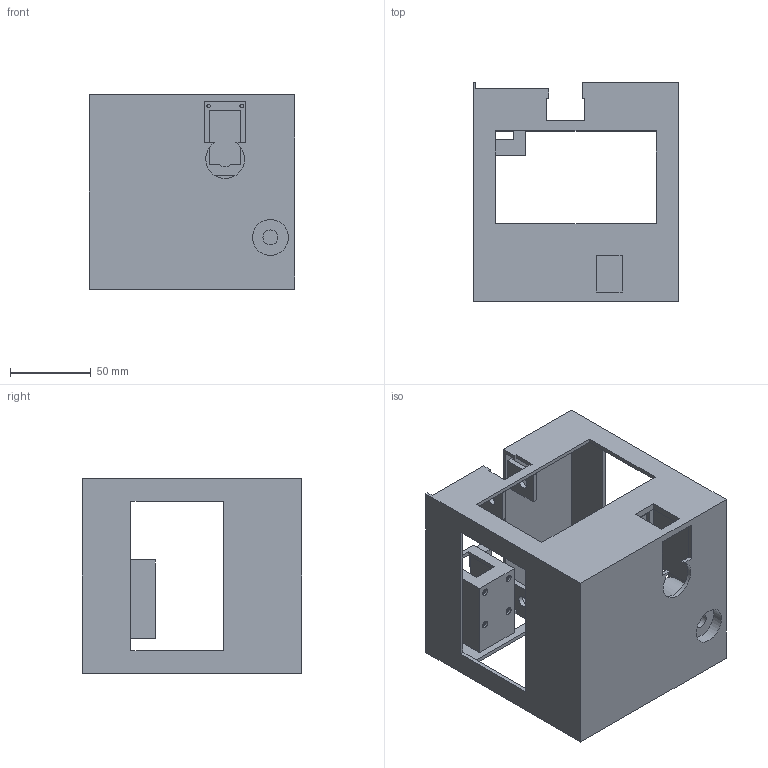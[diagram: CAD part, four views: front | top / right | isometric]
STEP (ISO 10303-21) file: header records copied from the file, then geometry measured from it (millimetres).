
FILE_DESCRIPTION(('Open CASCADE Model'),'2;1');
FILE_NAME('Open CASCADE Shape Model','2026-10-02T23:27:46',('Author'),( 'Open CASCADE'),'Open CASCADE STEP processor 7.9','Open CASCADE 7.9' ,'Unknown');
FILE_SCHEMA(('AUTOMOTIVE_DESIGN { 1 0 10303 214 1 1 1 1 }'));
Length unit declared in the file: millimetre
Products named in the file (6): Open CASCADE STEP translator 7.9 11; Open CASCADE STEP translator 7.9 11.1; Open CASCADE STEP translator 7.9 11.2; Open CASCADE STEP translator 7.9 11.3; Open CASCADE STEP translator 7.9 11.4; Open CASCADE STEP translator 7.9 11.5
Assembly tree (5 placements, depth 2):
  Open CASCADE STEP translator 7.9 11
    Open CASCADE STEP translator 7.9 11.1
    Open CASCADE STEP translator 7.9 11.2
    Open CASCADE STEP translator 7.9 11.3
    Open CASCADE STEP translator 7.9 11.4
    Open CASCADE STEP translator 7.9 11.5
Bounding box: 127 x 135.5 x 120.2 mm (x, y, z)
Volume: 202171.1 mm3; surface area: 157572.6 mm2
Topology: 5 solids, 5 shells, 198 faces, 520 edges, 347 vertices
Faces by surface type: plane 161, cylinder 37
Full cylindrical faces by diameter (mm): 2.2 x8, 3.3 x6, 4.4 x8, 5.2 x2, 7.2 x2, 9.2 x1, 11.2 x2, 12 x1, 22.1 x2
Entity records: 12841 total; most frequent: CARTESIAN_POINT 2685, DIRECTION 1701, LINE 1092, VECTOR 1092, ORIENTED_EDGE 1040, PCURVE 1040, DEFINITIONAL_REPRESENTATION 1040, EDGE_CURVE 520
